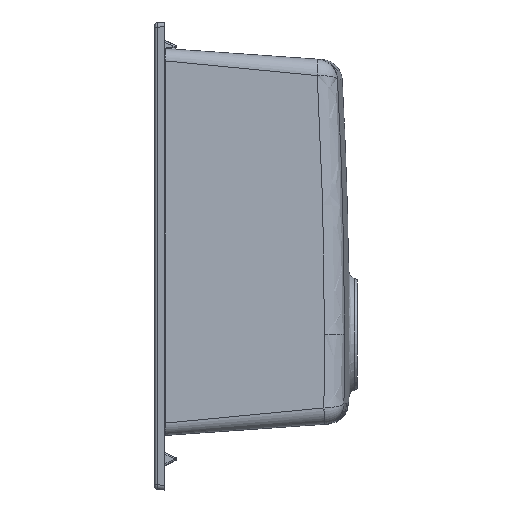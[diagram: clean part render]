
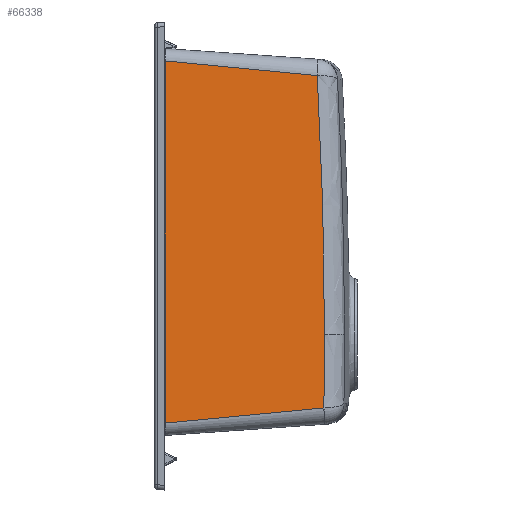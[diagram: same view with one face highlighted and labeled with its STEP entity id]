
A CAD part, left-side view. The second image highlights one B-rep face of the part: STEP entity #66338.
In plain terms, the highlighted planar face has unit normal (-0.998, -0.07, 0).
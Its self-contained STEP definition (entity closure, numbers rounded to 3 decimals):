
#792 = AXIS2_PLACEMENT_3D ( 'NONE', #18710, #71021, #26263 ) ;
#1345 = ORIENTED_EDGE ( 'NONE', *, *, #78578, .T. ) ;
#2322 = CARTESIAN_POINT ( 'NONE',  ( 39.627, -180.854, -412.771 ) ) ;
#3570 = PLANE ( 'NONE',  #792 ) ;
#4267 = LINE ( 'NONE', #91205, #41813 ) ;
#9373 = ORIENTED_EDGE ( 'NONE', *, *, #13341, .T. ) ;
#13341 = EDGE_CURVE ( 'NONE', #57646, #94610, #59286, .T. ) ;
#13576 = CARTESIAN_POINT ( 'NONE',  ( 27.74, -10.86, -435. ) ) ;
#13708 = FACE_OUTER_BOUND ( 'NONE', #15455, .T. ) ;
#14204 = DIRECTION ( 'NONE',  ( 0.069, -0.992, 0.109 ) ) ;
#15455 = EDGE_LOOP ( 'NONE', ( #9373, #1345, #96774, #95291, #94204, #92809 ) ) ;
#16642 = CARTESIAN_POINT ( 'NONE',  ( 39.141, -173.905, -56.74 ) ) ;
#17173 = CARTESIAN_POINT ( 'NONE',  ( 39.141, -173.905, -56.74 ) ) ;
#18710 = CARTESIAN_POINT ( 'NONE',  ( 27.019, -0.558, -435. ) ) ;
#19946 = VERTEX_POINT ( 'NONE', #43662 ) ;
#26263 = DIRECTION ( 'NONE',  ( 0.07, -0.998, 0. ) ) ;
#34462 = CARTESIAN_POINT ( 'NONE',  ( 27.74, -10.86, -429.019 ) ) ;
#38862 = VECTOR ( 'NONE', #14204, 1000. ) ;
#38897 = CARTESIAN_POINT ( 'NONE',  ( 39.682, -181.642, -333.8 ) ) ;
#38963 = DIRECTION ( 'NONE',  ( -0.069, 0.993, 0.096 ) ) ;
#41813 = VECTOR ( 'NONE', #38963, 1000. ) ;
#43662 = CARTESIAN_POINT ( 'NONE',  ( 27.74, -10.86, -40.992 ) ) ;
#46679 = VERTEX_POINT ( 'NONE', #17173 ) ;
#51018 = CARTESIAN_POINT ( 'NONE',  ( 39.682, -181.642, -333.8 ) ) ;
#51053 = LINE ( 'NONE', #51490, #38862 ) ;
#51344 = CARTESIAN_POINT ( 'NONE',  ( 39.667, -181.433, -386.437 ) ) ;
#51490 = CARTESIAN_POINT ( 'NONE',  ( 39.638, -181.014, -412.753 ) ) ;
#51667 = CARTESIAN_POINT ( 'NONE',  ( 39.638, -181.014, -412.753 ) ) ;
#51978 = CARTESIAN_POINT ( 'NONE',  ( 39.682, -181.642, -360.119 ) ) ;
#57646 = VERTEX_POINT ( 'NONE', #93610 ) ;
#58677 = DIRECTION ( 'NONE',  ( 0., 0., -1. ) ) ;
#59286 = B_SPLINE_CURVE_WITH_KNOTS ( 'NONE', 3,
 ( #51667, #51344, #51978, #51018 ),
 .UNSPECIFIED., .F., .F.,
 ( 4, 4 ),
 ( 0., 1. ),
 .UNSPECIFIED. ) ;
#61399 = CARTESIAN_POINT ( 'NONE',  ( 39.502, -179.063, -149.021 ) ) ;
#66338 = ADVANCED_FACE ( 'NONE', ( #13708 ), #3570, .T. ) ;
#66550 = CARTESIAN_POINT ( 'NONE',  ( 39.682, -181.642, -333.8 ) ) ;
#66995 = CARTESIAN_POINT ( 'NONE',  ( 39.682, -181.642, -241.374 ) ) ;
#67199 = EDGE_CURVE ( 'NONE', #46679, #19946, #4267, .T. ) ;
#69107 = EDGE_CURVE ( 'NONE', #79762, #57646, #51053, .T. ) ;
#69118 = EDGE_CURVE ( 'NONE', #83318, #79762, #96022, .T. ) ;
#70978 = LINE ( 'NONE', #13576, #91732 ) ;
#71021 = DIRECTION ( 'NONE',  ( -0.998, -0.07, 0. ) ) ;
#74074 = CARTESIAN_POINT ( 'NONE',  ( 33.628, -95.069, -420.97 ) ) ;
#76292 = VECTOR ( 'NONE', #81610, 1000. ) ;
#78578 = EDGE_CURVE ( 'NONE', #94610, #46679, #94974, .T. ) ;
#79448 = EDGE_CURVE ( 'NONE', #19946, #83318, #70978, .T. ) ;
#79762 = VERTEX_POINT ( 'NONE', #2322 ) ;
#81610 = DIRECTION ( 'NONE',  ( 0.069, -0.993, 0.095 ) ) ;
#83318 = VERTEX_POINT ( 'NONE', #34462 ) ;
#91205 = CARTESIAN_POINT ( 'NONE',  ( 39.141, -173.905, -56.74 ) ) ;
#91732 = VECTOR ( 'NONE', #58677, 1000. ) ;
#92809 = ORIENTED_EDGE ( 'NONE', *, *, #69107, .T. ) ;
#93610 = CARTESIAN_POINT ( 'NONE',  ( 39.638, -181.014, -412.753 ) ) ;
#94204 = ORIENTED_EDGE ( 'NONE', *, *, #69118, .T. ) ;
#94610 = VERTEX_POINT ( 'NONE', #66550 ) ;
#94974 = B_SPLINE_CURVE_WITH_KNOTS ( 'NONE', 3,
 ( #38897, #66995, #61399, #16642 ),
 .UNSPECIFIED., .F., .F.,
 ( 4, 4 ),
 ( 0., 1. ),
 .UNSPECIFIED. ) ;
#95291 = ORIENTED_EDGE ( 'NONE', *, *, #79448, .T. ) ;
#96022 = LINE ( 'NONE', #74074, #76292 ) ;
#96774 = ORIENTED_EDGE ( 'NONE', *, *, #67199, .T. ) ;
